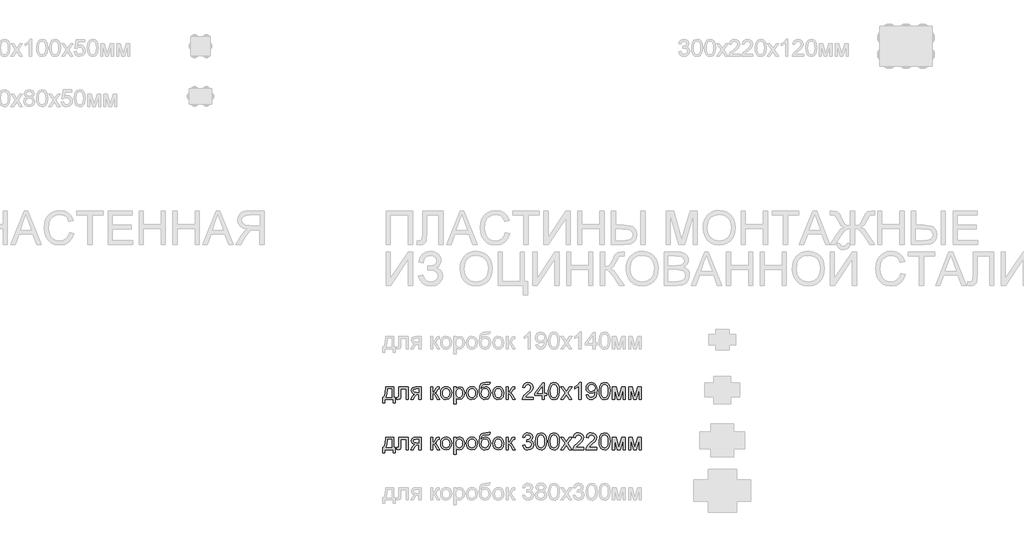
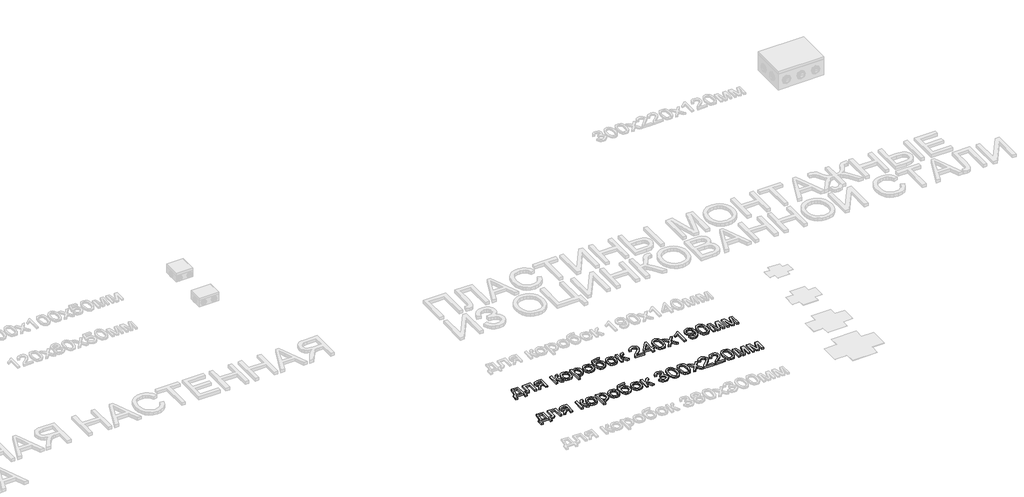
# One storey, part 9 of 98: 2 proxies.
"""IFC4 building model written with IfcOpenShell, lengths in millimetres."""

from ifc_helpers import new_model, si_unit, origin, origin_with_axes, place, context, project, spatial, polyline, outline, extrude, element, save

model = new_model("IFC4")

# Units and contexts
model_context = context("Model", 3, world=origin())
ifc_project = project(units=[si_unit("LENGTHUNIT", "METRE", prefix="MILLI")], contexts=[model_context])

# Site, building, storey
site = spatial("IfcSite", under=ifc_project)
building = spatial("IfcBuilding", under=site)
storey = spatial("IfcBuildingStorey", under=building, Name="Этаж 01", Elevation=0.0)

# Proxies
placement = place(None, origin())
element("IfcBuildingElementProxy", 1, Name="100", ObjectType="100", at=placement, inside=storey, context=model_context, shape_type="SweptSolid", body=[
    extrude(outline(polyline([(8408.5501681, -48630.4498145), (8455.6390635, -48630.4498145), (8455.6390635, -48691.6653785), (8465.0568426, -48691.6653785), (8465.0568426, -48724.6276053), (8452.4998038, -48724.6276053), (8452.4998038, -48704.2224173), (8400.7020189, -48704.2224173), (8400.7020189, -48724.6276053), (8388.1449801, -48724.6276053), (8388.1449801, -48691.6653785), (8395.9931294, -48691.6653785), (8405.6929513, -48667.7162606), (8408.5501681, -48630.4498145)]), holes=[polyline([(8419.5375771, -48643.0068533), (8416.5945211, -48671.6158098), (8410.119798, -48691.6653785), (8443.0820247, -48691.6653785), (8443.0820247, -48643.0068533), (8419.5375771, -48643.0068533)])]), origin_with_axes(), (0.0, 0.0, 1.0), 10.0),
    extrude(outline(polyline([(8485.4620306, -48630.4498145), (8541.968705, -48630.4498145), (8541.968705, -48704.1488409), (8529.4116663, -48704.1488409), (8529.4116663, -48643.0068533), (8498.0190694, -48643.0068533), (8498.0190694, -48678.2008975), (8497.1729408, -48694.4367562), (8492.5253649, -48701.2916241), (8481.537956, -48704.2224173), (8471.335362, -48703.5847552), (8471.335362, -48691.6653785), (8476.9516938, -48691.6653785), (8482.6293392, -48690.8928263), (8484.8979449, -48688.4402797), (8485.4620306, -48677.489659), (8485.4620306, -48630.4498145)])), origin_with_axes(), (0.0, 0.0, 1.0), 10.0),
    extrude(outline(polyline([(8617.3109377, -48630.4498145), (8617.3109377, -48704.2224173), (8604.7538989, -48704.2224173), (8604.7538989, -48675.9690801), (8597.9112938, -48675.9690801), (8588.5916166, -48677.5632354), (8579.8360251, -48688.2808642), (8569.8296348, -48704.2224173), (8555.3105587, -48704.2224173), (8567.9166484, -48684.0624839), (8578.6097518, -48673.6146353), (8570.0258385, -48670.984279), (8563.9925738, -48665.9872153), (8559.2346334, -48651.7624448), (8560.8594455, -48643.1662688), (8565.7338819, -48636.3604519), (8573.6862644, -48631.9274739), (8584.5449146, -48630.4498145), (8617.3109377, -48630.4498145)]), holes=[polyline([(8604.7538989, -48643.0068533), (8588.1992091, -48643.0068533), (8574.7960417, -48645.913121), (8571.7916721, -48652.718938), (8576.2185188, -48660.8246046), (8591.9025545, -48663.4120413), (8604.7538989, -48663.4120413), (8604.7538989, -48643.0068533)])]), origin_with_axes(), (0.0, 0.0, 1.0), 10.0),
    extrude(outline(polyline([(8675.387242, -48630.4498145), (8687.9442807, -48630.4498145), (8687.9442807, -48661.8424114), (8696.3565157, -48659.5860685), (8703.2481717, -48646.4404186), (8708.9748681, -48635.0973904), (8714.0271142, -48631.4063077), (8723.2119013, -48630.4498145), (8725.615397, -48630.4498145), (8725.615397, -48643.0804297), (8722.2308827, -48643.0068533), (8716.0995161, -48644.3312285), (8711.783034, -48652.5963106), (8706.7185252, -48661.5358431), (8699.6184027, -48665.9136389), (8707.5401283, -48670.800338), (8715.3147012, -48681.0949025), (8728.7546567, -48704.2224173), (8714.4808353, -48704.2224173), (8701.3106599, -48681.5854118), (8694.688784, -48672.0082172), (8687.9442807, -48669.6905607), (8687.9442807, -48704.2224173), (8675.387242, -48704.2224173), (8675.387242, -48630.4498145)])), origin_with_axes(), (0.0, 0.0, 1.0), 10.0),
    extrude(outline(polyline([(8733.4635463, -48667.3361159), (8736.1797417, -48649.5490214), (8744.3283279, -48637.047165), (8754.3960318, -48630.9219297), (8766.4502985, -48628.8801847), (8779.6419337, -48631.3664538), (8790.1786872, -48638.8252613), (8797.0856717, -48650.6679958), (8799.3879998, -48666.3060463), (8795.3167724, -48688.6487462), (8783.4587094, -48701.2916241), (8766.4502985, -48705.7920471), (8753.0992478, -48703.314975), (8742.574757, -48695.8837587), (8735.741349, -48683.7927038), (8733.4635463, -48667.3361159)]), holes=[polyline([(8746.020585, -48667.3115904), (8747.4737189, -48678.6760784), (8751.8331206, -48686.772548), (8758.3936828, -48691.6193933), (8766.4502985, -48693.2350084), (8774.470126, -48691.6101962), (8781.0184255, -48686.7357598), (8785.3778272, -48678.5319913), (8786.830961, -48666.919183), (8785.3686301, -48655.8857888), (8780.9816373, -48647.8996838), (8774.4241407, -48643.0528385), (8766.4502985, -48641.4372234), (8758.3936828, -48643.0467072), (8751.8331206, -48647.8751584), (8747.4737189, -48655.9532338), (8746.020585, -48667.3115904)])]), origin_with_axes(), (0.0, 0.0, 1.0), 10.0),
    extrude(outline(polyline([(8813.5146684, -48732.4757545), (8813.5146684, -48630.4498145), (8826.0717072, -48630.4498145), (8826.0717072, -48642.7615986), (8834.7537223, -48632.3505382), (8846.4768952, -48628.8801847), (8862.3939228, -48633.736227), (8872.7927206, -48647.4214372), (8876.2998623, -48666.7720302), (8872.3389994, -48687.1159045), (8860.8365557, -48700.972793), (8844.9563163, -48705.7920471), (8834.030221, -48702.5669483), (8826.0717072, -48694.4122307), (8826.0717072, -48732.4757545), (8813.5146684, -48732.4757545)]), holes=[polyline([(8826.0717072, -48667.9247271), (8827.4298049, -48679.1819161), (8831.504098, -48687.0545908), (8837.5159029, -48691.689904), (8844.6865361, -48693.2350084), (8851.9736653, -48691.6347217), (8858.1387544, -48686.8338616), (8862.3418062, -48678.6730127), (8863.7428235, -48666.9927594), (8862.3755287, -48655.796884), (8858.2736445, -48647.8138447), (8852.2710366, -48643.0313788), (8845.2015709, -48641.4372234), (8838.1045141, -48643.1325463), (8831.87198, -48648.2185149), (8827.5217754, -48656.5357137), (8826.0717072, -48667.9247271)])]), origin_with_axes(), (0.0, 0.0, 1.0), 10.0),
    extrude(outline(polyline([(8887.2872712, -48667.3361159), (8890.0034666, -48649.5490214), (8898.1520528, -48637.047165), (8908.2197567, -48630.9219297), (8920.2740234, -48628.8801847), (8933.4656586, -48631.3664538), (8944.0024121, -48638.8252613), (8950.9093966, -48650.6679958), (8953.2117247, -48666.3060463), (8949.1404973, -48688.6487462), (8937.2824343, -48701.2916241), (8920.2740234, -48705.7920471), (8906.9229727, -48703.314975), (8896.3984819, -48695.8837587), (8889.5650739, -48683.7927038), (8887.2872712, -48667.3361159)]), holes=[polyline([(8899.84431, -48667.3115904), (8901.2974438, -48678.6760784), (8905.6568455, -48686.772548), (8912.2174077, -48691.6193933), (8920.2740234, -48693.2350084), (8928.2938509, -48691.6101962), (8934.8421504, -48686.7357598), (8939.2015521, -48678.5319913), (8940.654686, -48666.919183), (8939.192355, -48655.8857888), (8934.8053622, -48647.8996838), (8928.2478657, -48643.0528385), (8920.2740234, -48641.4372234), (8912.2174077, -48643.0467072), (8905.6568455, -48647.8751584), (8901.2974438, -48655.9532338), (8899.84431, -48667.3115904)])]), origin_with_axes(), (0.0, 0.0, 1.0), 10.0),
    extrude(outline(polyline([(9019.1361783, -48602.1964773), (9030.1235872, -48602.1964773), (9026.8862256, -48611.9944011), (9020.4850789, -48615.538331), (9005.1076115, -48616.3231459), (8984.3958552, -48619.2171509), (8976.4496041, -48628.4877772), (8973.7640655, -48644.8953142), (8984.6411098, -48632.8778357), (8998.6574139, -48628.8801847), (9011.7233561, -48631.4216361), (9022.3244889, -48639.0459905), (9029.351035, -48651.005221), (9031.693217, -48666.551301), (9027.0456412, -48688.1582368), (9016.021444, -48701.1935222), (8998.6574139, -48705.7920471), (8987.3235827, -48704.3113221), (8978.8285743, -48699.869147), (8967.9760555, -48684.7124088), (8964.1991336, -48652.5472597), (8966.5811696, -48628.4540547), (8973.7272773, -48613.7602347), (8985.8152665, -48606.264639), (9003.0229469, -48603.7661071), (9017.0024627, -48603.4840643), (9019.1361783, -48602.1964773)]), holes=[polyline([(9019.1361783, -48666.1588935), (9017.7750149, -48656.2781963), (9013.6915247, -48648.3656677), (9007.1309625, -48643.1693345), (8998.3385828, -48641.4372234), (8989.1721898, -48643.2674364), (8982.3725042, -48648.7580751), (8978.1602554, -48657.3082658), (8976.7561724, -48668.3171346), (8978.3074082, -48678.9887781), (8982.9611154, -48686.8215989), (8989.8895596, -48691.631656), (8998.2650064, -48693.2350084), (9006.6833727, -48691.38027), (9013.3481682, -48685.8160548), (9017.6891757, -48677.1922877), (9019.1361783, -48666.1588935)])]), origin_with_axes(), (0.0, 0.0, 1.0), 10.0),
    extrude(outline(polyline([(9044.2502558, -48667.3361159), (9046.9664512, -48649.5490214), (9055.1150374, -48637.047165), (9065.1827413, -48630.9219297), (9077.237008, -48628.8801847), (9090.4286432, -48631.3664538), (9100.9653967, -48638.8252613), (9107.8723812, -48650.6679958), (9110.1747093, -48666.3060463), (9106.1034819, -48688.6487462), (9094.2454189, -48701.2916241), (9077.237008, -48705.7920471), (9063.8859573, -48703.314975), (9053.3614665, -48695.8837587), (9046.5280585, -48683.7927038), (9044.2502558, -48667.3361159)]), holes=[polyline([(9056.8072946, -48667.3115904), (9058.2604284, -48678.6760784), (9062.6198301, -48686.772548), (9069.1803923, -48691.6193933), (9077.237008, -48693.2350084), (9085.2568355, -48691.6101962), (9091.805135, -48686.7357598), (9096.1645367, -48678.5319913), (9097.6176706, -48666.919183), (9096.1553396, -48655.8857888), (9091.7683468, -48647.8996838), (9085.2108503, -48643.0528385), (9077.237008, -48641.4372234), (9069.1803923, -48643.0467072), (9062.6198301, -48647.8751584), (9058.2604284, -48655.9532338), (9056.8072946, -48667.3115904)])]), origin_with_axes(), (0.0, 0.0, 1.0), 10.0),
    extrude(outline(polyline([(9124.3013779, -48630.4498145), (9136.8584167, -48630.4498145), (9136.8584167, -48661.8424114), (9145.2706517, -48659.5860685), (9152.1623077, -48646.4404186), (9157.8890041, -48635.0973904), (9162.9412502, -48631.4063077), (9172.1260373, -48630.4498145), (9174.529533, -48630.4498145), (9174.529533, -48643.0804297), (9171.1450187, -48643.0068533), (9165.0136521, -48644.3312285), (9160.69717, -48652.5963106), (9155.6326612, -48661.5358431), (9148.5325387, -48665.9136389), (9156.4542643, -48670.800338), (9164.2288372, -48681.0949025), (9177.6687927, -48704.2224173), (9163.3949713, -48704.2224173), (9150.2247959, -48681.5854118), (9143.60292, -48672.0082172), (9136.8584167, -48669.6905607), (9136.8584167, -48704.2224173), (9124.3013779, -48704.2224173), (9124.3013779, -48630.4498145)])), origin_with_axes(), (0.0, 0.0, 1.0), 10.0),
    extrude(outline(polyline([(9285.9732521, -48691.6653785), (9285.9732521, -48704.2224173), (9220.0487986, -48704.2224173), (9221.3976992, -48695.5649277), (9229.0251192, -48682.2353367), (9244.7459432, -48667.6794724), (9266.4264554, -48646.7592496), (9271.8465835, -48632.5344792), (9266.7330237, -48621.0197727), (9253.3789073, -48616.3231459), (9239.4607052, -48620.9094081), (9234.1754672, -48633.5890742), (9221.6184284, -48632.0194444), (9224.6626519, -48619.8732072), (9231.2446739, -48611.0011197), (9241.021138, -48605.5748603), (9253.6486874, -48603.7661071), (9266.3682074, -48605.7771954), (9276.1262774, -48611.8104601), (9282.334286, -48620.823569), (9284.4036222, -48631.7741897), (9282.1718048, -48643.6813036), (9274.7528512, -48655.9930877), (9256.7634217, -48673.1977024), (9242.317922, -48685.2764945), (9236.6525393, -48691.6653785), (9285.9732521, -48691.6653785)])), origin_with_axes(), (0.0, 0.0, 1.0), 10.0),
    extrude(outline(polyline([(9339.3406669, -48704.2224173), (9339.3406669, -48680.6779696), (9293.8214013, -48680.6779696), (9293.8214013, -48668.1209308), (9342.4799266, -48605.335737), (9351.8977056, -48605.335737), (9351.8977056, -48668.1209308), (9364.4547444, -48668.1209308), (9364.4547444, -48680.6779696), (9351.8977056, -48680.6779696), (9351.8977056, -48704.2224173), (9339.3406669, -48704.2224173)]), holes=[polyline([(9339.3406669, -48668.1209308), (9339.3406669, -48629.3216431), (9309.2724451, -48668.1209308), (9339.3406669, -48668.1209308)])]), origin_with_axes(), (0.0, 0.0, 1.0), 10.0),
    extrude(outline(polyline([(9375.4421533, -48654.8036026), (9379.133236, -48625.9003405), (9390.0961195, -48609.2352861), (9408.4043801, -48603.7661071), (9423.070609, -48607.0034687), (9433.1996266, -48616.3354086), (9439.0857385, -48631.1978412), (9441.3666069, -48654.8036026), (9437.7123124, -48683.5842374), (9426.7862171, -48700.2860799), (9418.5548575, -48704.4155553), (9408.4043801, -48705.7920471), (9395.356832, -48703.4008142), (9385.4485436, -48696.2271153), (9377.9437509, -48679.2370984), (9375.4421533, -48654.8036026)]), holes=[polyline([(9387.9991921, -48654.7790771), (9389.4707201, -48674.5312746), (9393.885304, -48685.9632076), (9400.458129, -48691.4170582), (9408.4043801, -48693.2350084), (9416.3506312, -48691.4109268), (9422.9234562, -48685.9386821), (9427.3380401, -48674.5006178), (9428.8095681, -48654.7790771), (9427.387091, -48635.4714038), (9423.1196599, -48623.9505659), (9416.5590976, -48618.2300009), (9408.2572273, -48616.3231459), (9400.3968153, -48618.0031403), (9394.0815077, -48623.0431237), (9389.519771, -48635.2813314), (9387.9991921, -48654.7790771)])]), origin_with_axes(), (0.0, 0.0, 1.0), 10.0),
    extrude(outline(polyline([(9447.6451262, -48704.2224173), (9474.4759864, -48667.1399122), (9449.2147561, -48630.4498145), (9464.3224434, -48630.4498145), (9476.5116001, -48648.1081503), (9482.2015083, -48656.4468088), (9487.1311271, -48649.6287292), (9501.012541, -48630.4498145), (9516.1202283, -48630.4498145), (9489.5836737, -48667.1399122), (9515.1392096, -48704.2224173), (9500.0315224, -48704.2224173), (9484.654055, -48681.9287684), (9481.8336263, -48677.857541), (9462.7528135, -48704.2224173), (9447.6451262, -48704.2224173)])), origin_with_axes(), (0.0, 0.0, 1.0), 10.0),
    extrude(outline(polyline([(9570.0762542, -48704.2224173), (9557.5192155, -48704.2224173), (9557.5192155, -48625.9371287), (9545.6243643, -48634.4106773), (9532.4051379, -48640.7505104), (9532.4051379, -48628.8801847), (9550.8115004, -48617.1324863), (9561.9828503, -48603.7661071), (9570.0762542, -48603.7661071), (9570.0762542, -48704.2224173)])), origin_with_axes(), (0.0, 0.0, 1.0), 10.0),
    extrude(outline(polyline([(9601.4688512, -48679.1083397), (9614.0258899, -48677.5387099), (9619.6667472, -48689.5194002), (9630.3598505, -48693.2350084), (9640.5256563, -48690.8437754), (9647.4173124, -48684.4548914), (9651.525328, -48673.5410589), (9653.3402125, -48658.9729319), (9653.2666361, -48656.5203852), (9643.2234576, -48666.0362662), (9629.4524083, -48669.6905607), (9618.0020812, -48667.4587432), (9608.4708718, -48660.7632909), (9602.0421339, -48650.4196755), (9599.8992213, -48637.2433687), (9602.1463672, -48623.6317349), (9608.8878047, -48612.963157), (9619.0137566, -48606.0653696), (9631.4144456, -48603.7661071), (9649.3057733, -48609.0145569), (9661.6175574, -48623.9750914), (9665.8236748, -48652.0812758), (9661.6298201, -48682.5786932), (9656.4150928, -48692.5697551), (9649.1586205, -48699.8568843), (9640.1731027, -48704.3082564), (9629.7712393, -48705.7920471), (9619.0352164, -48704.041542), (9610.4696973, -48698.7900265), (9604.4793521, -48690.3685945), (9601.4688512, -48679.1083397)]), holes=[polyline([(9653.2666361, -48636.9490631), (9651.9116041, -48628.4387263), (9647.846508, -48621.8904268), (9641.5373318, -48617.7149661), (9633.4500593, -48616.3231459), (9625.0623498, -48617.822265), (9618.342372, -48622.3196224), (9613.9277881, -48629.2020814), (9612.4562601, -48637.8565054), (9613.8480803, -48645.6157498), (9618.0235409, -48651.7747075), (9624.5779718, -48655.7938183), (9633.1067027, -48657.1335219), (9647.5889906, -48651.7747075), (9651.8472247, -48645.3888892), (9653.2666361, -48636.9490631)])]), origin_with_axes(), (0.0, 0.0, 1.0), 10.0),
    extrude(outline(polyline([(9676.8110838, -48654.8036026), (9680.5021665, -48625.9003405), (9691.4650499, -48609.2352861), (9709.7733105, -48603.7661071), (9724.4395394, -48607.0034687), (9734.568557, -48616.3354086), (9740.4546689, -48631.1978412), (9742.7355373, -48654.8036026), (9739.0812428, -48683.5842374), (9728.1551476, -48700.2860799), (9719.9237879, -48704.4155553), (9709.7733105, -48705.7920471), (9696.7257624, -48703.4008142), (9686.817474, -48696.2271153), (9679.3126813, -48679.2370984), (9676.8110838, -48654.8036026)]), holes=[polyline([(9689.3681225, -48654.7790771), (9690.8396505, -48674.5312746), (9695.2542345, -48685.9632076), (9701.8270594, -48691.4170582), (9709.7733105, -48693.2350084), (9717.7195616, -48691.4109268), (9724.2923866, -48685.9386821), (9728.7069706, -48674.5006178), (9730.1784985, -48654.7790771), (9728.7560215, -48635.4714038), (9724.4885903, -48623.9505659), (9717.9280281, -48618.2300009), (9709.6261577, -48616.3231459), (9701.7657458, -48618.0031403), (9695.4504382, -48623.0431237), (9690.8887015, -48635.2813314), (9689.3681225, -48654.7790771)])]), origin_with_axes(), (0.0, 0.0, 1.0), 10.0),
    extrude(outline(polyline([(9756.8622059, -48630.4498145), (9778.4691418, -48630.4498145), (9795.1219334, -48689.5071375), (9813.0745748, -48630.4498145), (9833.7740684, -48630.4498145), (9833.7740684, -48704.2224173), (9821.2170296, -48704.2224173), (9821.2170296, -48644.8217378), (9803.1662864, -48704.2224173), (9786.685173, -48704.2224173), (9769.4192447, -48641.9767837), (9769.4192447, -48704.2224173), (9756.8622059, -48704.2224173), (9756.8622059, -48630.4498145)])), origin_with_axes(), (0.0, 0.0, 1.0), 10.0),
    extrude(outline(polyline([(9852.6096265, -48630.4498145), (9874.2165624, -48630.4498145), (9890.869354, -48689.5071375), (9908.8219954, -48630.4498145), (9929.521489, -48630.4498145), (9929.521489, -48704.2224173), (9916.9644502, -48704.2224173), (9916.9644502, -48644.8217378), (9898.913707, -48704.2224173), (9882.4325936, -48704.2224173), (9865.1666653, -48641.9767837), (9865.1666653, -48704.2224173), (9852.6096265, -48704.2224173), (9852.6096265, -48630.4498145)])), origin_with_axes(), (0.0, 0.0, 1.0), 10.0),
])
element("IfcBuildingElementProxy", 2, Name="100", ObjectType="100", at=placement, inside=storey, context=model_context, shape_type="SweptSolid", body=[
    extrude(outline(polyline([(8408.5501681, -48930.4498145), (8455.6390635, -48930.4498145), (8455.6390635, -48991.6653785), (8465.0568426, -48991.6653785), (8465.0568426, -49024.6276053), (8452.4998038, -49024.6276053), (8452.4998038, -49004.2224173), (8400.7020189, -49004.2224173), (8400.7020189, -49024.6276053), (8388.1449801, -49024.6276053), (8388.1449801, -48991.6653785), (8395.9931294, -48991.6653785), (8405.6929513, -48967.7162606), (8408.5501681, -48930.4498145)]), holes=[polyline([(8419.5375771, -48943.0068533), (8416.5945211, -48971.6158098), (8410.119798, -48991.6653785), (8443.0820247, -48991.6653785), (8443.0820247, -48943.0068533), (8419.5375771, -48943.0068533)])]), origin_with_axes(), (0.0, 0.0, 1.0), 10.0),
    extrude(outline(polyline([(8485.4620306, -48930.4498145), (8541.968705, -48930.4498145), (8541.968705, -49004.1488409), (8529.4116663, -49004.1488409), (8529.4116663, -48943.0068533), (8498.0190694, -48943.0068533), (8498.0190694, -48978.2008975), (8497.1729408, -48994.4367562), (8492.5253649, -49001.2916241), (8481.537956, -49004.2224173), (8471.335362, -49003.5847552), (8471.335362, -48991.6653785), (8476.9516938, -48991.6653785), (8482.6293392, -48990.8928263), (8484.8979449, -48988.4402797), (8485.4620306, -48977.489659), (8485.4620306, -48930.4498145)])), origin_with_axes(), (0.0, 0.0, 1.0), 10.0),
    extrude(outline(polyline([(8617.3109377, -48930.4498145), (8617.3109377, -49004.2224173), (8604.7538989, -49004.2224173), (8604.7538989, -48975.9690801), (8597.9112938, -48975.9690801), (8588.5916166, -48977.5632354), (8579.8360251, -48988.2808642), (8569.8296348, -49004.2224173), (8555.3105587, -49004.2224173), (8567.9166484, -48984.0624839), (8578.6097518, -48973.6146353), (8570.0258385, -48970.984279), (8563.9925738, -48965.9872153), (8559.2346334, -48951.7624448), (8560.8594455, -48943.1662688), (8565.7338819, -48936.3604519), (8573.6862644, -48931.9274739), (8584.5449146, -48930.4498145), (8617.3109377, -48930.4498145)]), holes=[polyline([(8604.7538989, -48943.0068533), (8588.1992091, -48943.0068533), (8574.7960417, -48945.913121), (8571.7916721, -48952.718938), (8576.2185188, -48960.8246046), (8591.9025545, -48963.4120413), (8604.7538989, -48963.4120413), (8604.7538989, -48943.0068533)])]), origin_with_axes(), (0.0, 0.0, 1.0), 10.0),
    extrude(outline(polyline([(8675.387242, -48930.4498145), (8687.9442807, -48930.4498145), (8687.9442807, -48961.8424114), (8696.3565157, -48959.5860685), (8703.2481717, -48946.4404186), (8708.9748681, -48935.0973904), (8714.0271142, -48931.4063077), (8723.2119013, -48930.4498145), (8725.615397, -48930.4498145), (8725.615397, -48943.0804297), (8722.2308827, -48943.0068533), (8716.0995161, -48944.3312285), (8711.783034, -48952.5963106), (8706.7185252, -48961.5358431), (8699.6184027, -48965.9136389), (8707.5401283, -48970.800338), (8715.3147012, -48981.0949025), (8728.7546567, -49004.2224173), (8714.4808353, -49004.2224173), (8701.3106599, -48981.5854118), (8694.688784, -48972.0082172), (8687.9442807, -48969.6905607), (8687.9442807, -49004.2224173), (8675.387242, -49004.2224173), (8675.387242, -48930.4498145)])), origin_with_axes(), (0.0, 0.0, 1.0), 10.0),
    extrude(outline(polyline([(8733.4635463, -48967.3361159), (8736.1797417, -48949.5490214), (8744.3283279, -48937.047165), (8754.3960318, -48930.9219297), (8766.4502985, -48928.8801847), (8779.6419337, -48931.3664538), (8790.1786872, -48938.8252613), (8797.0856717, -48950.6679958), (8799.3879998, -48966.3060463), (8795.3167724, -48988.6487462), (8783.4587094, -49001.2916241), (8766.4502985, -49005.7920471), (8753.0992478, -49003.314975), (8742.574757, -48995.8837587), (8735.741349, -48983.7927038), (8733.4635463, -48967.3361159)]), holes=[polyline([(8746.020585, -48967.3115904), (8747.4737189, -48978.6760784), (8751.8331206, -48986.772548), (8758.3936828, -48991.6193933), (8766.4502985, -48993.2350084), (8774.470126, -48991.6101962), (8781.0184255, -48986.7357598), (8785.3778272, -48978.5319913), (8786.830961, -48966.919183), (8785.3686301, -48955.8857888), (8780.9816373, -48947.8996838), (8774.4241407, -48943.0528385), (8766.4502985, -48941.4372234), (8758.3936828, -48943.0467072), (8751.8331206, -48947.8751584), (8747.4737189, -48955.9532338), (8746.020585, -48967.3115904)])]), origin_with_axes(), (0.0, 0.0, 1.0), 10.0),
    extrude(outline(polyline([(8813.5146684, -49032.4757545), (8813.5146684, -48930.4498145), (8826.0717072, -48930.4498145), (8826.0717072, -48942.7615986), (8834.7537223, -48932.3505382), (8846.4768952, -48928.8801847), (8862.3939228, -48933.736227), (8872.7927206, -48947.4214372), (8876.2998623, -48966.7720302), (8872.3389994, -48987.1159045), (8860.8365557, -49000.972793), (8844.9563163, -49005.7920471), (8834.030221, -49002.5669483), (8826.0717072, -48994.4122307), (8826.0717072, -49032.4757545), (8813.5146684, -49032.4757545)]), holes=[polyline([(8826.0717072, -48967.9247271), (8827.4298049, -48979.1819161), (8831.504098, -48987.0545908), (8837.5159029, -48991.689904), (8844.6865361, -48993.2350084), (8851.9736653, -48991.6347217), (8858.1387544, -48986.8338616), (8862.3418062, -48978.6730127), (8863.7428235, -48966.9927594), (8862.3755287, -48955.796884), (8858.2736445, -48947.8138447), (8852.2710366, -48943.0313788), (8845.2015709, -48941.4372234), (8838.1045141, -48943.1325463), (8831.87198, -48948.2185149), (8827.5217754, -48956.5357137), (8826.0717072, -48967.9247271)])]), origin_with_axes(), (0.0, 0.0, 1.0), 10.0),
    extrude(outline(polyline([(8887.2872712, -48967.3361159), (8890.0034666, -48949.5490214), (8898.1520528, -48937.047165), (8908.2197567, -48930.9219297), (8920.2740234, -48928.8801847), (8933.4656586, -48931.3664538), (8944.0024121, -48938.8252613), (8950.9093966, -48950.6679958), (8953.2117247, -48966.3060463), (8949.1404973, -48988.6487462), (8937.2824343, -49001.2916241), (8920.2740234, -49005.7920471), (8906.9229727, -49003.314975), (8896.3984819, -48995.8837587), (8889.5650739, -48983.7927038), (8887.2872712, -48967.3361159)]), holes=[polyline([(8899.84431, -48967.3115904), (8901.2974438, -48978.6760784), (8905.6568455, -48986.772548), (8912.2174077, -48991.6193933), (8920.2740234, -48993.2350084), (8928.2938509, -48991.6101962), (8934.8421504, -48986.7357598), (8939.2015521, -48978.5319913), (8940.654686, -48966.919183), (8939.192355, -48955.8857888), (8934.8053622, -48947.8996838), (8928.2478657, -48943.0528385), (8920.2740234, -48941.4372234), (8912.2174077, -48943.0467072), (8905.6568455, -48947.8751584), (8901.2974438, -48955.9532338), (8899.84431, -48967.3115904)])]), origin_with_axes(), (0.0, 0.0, 1.0), 10.0),
    extrude(outline(polyline([(9019.1361783, -48902.1964773), (9030.1235872, -48902.1964773), (9026.8862256, -48911.9944011), (9020.4850789, -48915.538331), (9005.1076115, -48916.3231459), (8984.3958552, -48919.2171509), (8976.4496041, -48928.4877772), (8973.7640655, -48944.8953142), (8984.6411098, -48932.8778357), (8998.6574139, -48928.8801847), (9011.7233561, -48931.4216361), (9022.3244889, -48939.0459905), (9029.351035, -48951.005221), (9031.693217, -48966.551301), (9027.0456412, -48988.1582368), (9016.021444, -49001.1935222), (8998.6574139, -49005.7920471), (8987.3235827, -49004.3113221), (8978.8285743, -48999.869147), (8967.9760555, -48984.7124088), (8964.1991336, -48952.5472597), (8966.5811696, -48928.4540547), (8973.7272773, -48913.7602347), (8985.8152665, -48906.264639), (9003.0229469, -48903.7661071), (9017.0024627, -48903.4840643), (9019.1361783, -48902.1964773)]), holes=[polyline([(9019.1361783, -48966.1588935), (9017.7750149, -48956.2781963), (9013.6915247, -48948.3656677), (9007.1309625, -48943.1693345), (8998.3385828, -48941.4372234), (8989.1721898, -48943.2674364), (8982.3725042, -48948.7580751), (8978.1602554, -48957.3082658), (8976.7561724, -48968.3171346), (8978.3074082, -48978.9887781), (8982.9611154, -48986.8215989), (8989.8895596, -48991.631656), (8998.2650064, -48993.2350084), (9006.6833727, -48991.38027), (9013.3481682, -48985.8160548), (9017.6891757, -48977.1922877), (9019.1361783, -48966.1588935)])]), origin_with_axes(), (0.0, 0.0, 1.0), 10.0),
    extrude(outline(polyline([(9044.2502558, -48967.3361159), (9046.9664512, -48949.5490214), (9055.1150374, -48937.047165), (9065.1827413, -48930.9219297), (9077.237008, -48928.8801847), (9090.4286432, -48931.3664538), (9100.9653967, -48938.8252613), (9107.8723812, -48950.6679958), (9110.1747093, -48966.3060463), (9106.1034819, -48988.6487462), (9094.2454189, -49001.2916241), (9077.237008, -49005.7920471), (9063.8859573, -49003.314975), (9053.3614665, -48995.8837587), (9046.5280585, -48983.7927038), (9044.2502558, -48967.3361159)]), holes=[polyline([(9056.8072946, -48967.3115904), (9058.2604284, -48978.6760784), (9062.6198301, -48986.772548), (9069.1803923, -48991.6193933), (9077.237008, -48993.2350084), (9085.2568355, -48991.6101962), (9091.805135, -48986.7357598), (9096.1645367, -48978.5319913), (9097.6176706, -48966.919183), (9096.1553396, -48955.8857888), (9091.7683468, -48947.8996838), (9085.2108503, -48943.0528385), (9077.237008, -48941.4372234), (9069.1803923, -48943.0467072), (9062.6198301, -48947.8751584), (9058.2604284, -48955.9532338), (9056.8072946, -48967.3115904)])]), origin_with_axes(), (0.0, 0.0, 1.0), 10.0),
    extrude(outline(polyline([(9124.3013779, -48930.4498145), (9136.8584167, -48930.4498145), (9136.8584167, -48961.8424114), (9145.2706517, -48959.5860685), (9152.1623077, -48946.4404186), (9157.8890041, -48935.0973904), (9162.9412502, -48931.4063077), (9172.1260373, -48930.4498145), (9174.529533, -48930.4498145), (9174.529533, -48943.0804297), (9171.1450187, -48943.0068533), (9165.0136521, -48944.3312285), (9160.69717, -48952.5963106), (9155.6326612, -48961.5358431), (9148.5325387, -48965.9136389), (9156.4542643, -48970.800338), (9164.2288372, -48981.0949025), (9177.6687927, -49004.2224173), (9163.3949713, -49004.2224173), (9150.2247959, -48981.5854118), (9143.60292, -48972.0082172), (9136.8584167, -48969.6905607), (9136.8584167, -49004.2224173), (9124.3013779, -49004.2224173), (9124.3013779, -48930.4498145)])), origin_with_axes(), (0.0, 0.0, 1.0), 10.0),
    extrude(outline(polyline([(9221.6184284, -48977.5387099), (9234.1754672, -48975.9690801), (9241.1039114, -48989.1883064), (9254.0656204, -48993.2350084), (9262.6740591, -48991.8431881), (9269.3204604, -48987.6677275), (9274.9858432, -48973.8844154), (9269.3695114, -48960.898181), (9255.09569, -48955.7600958), (9246.2910475, -48957.1335219), (9247.6889991, -48944.5764831), (9249.7000874, -48944.7236359), (9263.9493833, -48941.1183924), (9268.6950611, -48936.5443929), (9270.2769536, -48930.0328816), (9265.6906914, -48920.2104323), (9253.8694166, -48916.3231459), (9241.9009891, -48920.2472205), (9235.745097, -48932.0194444), (9223.1880582, -48930.4498145), (9226.8852723, -48919.1742314), (9233.4642286, -48910.755865), (9242.4650748, -48905.5135466), (9253.4279583, -48903.7661071), (9268.5724337, -48907.2119352), (9279.1674352, -48916.6297142), (9282.8339924, -48929.2971176), (9279.3513762, -48940.8731377), (9269.0506803, -48949.1872708), (9282.7358905, -48957.771184), (9287.5428819, -48974.1051446), (9285.1393862, -48986.3433523), (9277.9288991, -48996.5704718), (9267.0457234, -49003.4866533), (9253.624162, -49005.7920471), (9241.4840561, -49003.8238785), (9231.6002932, -48997.9193724), (9224.7270313, -48988.8878695), (9221.6184284, -48977.5387099)])), origin_with_axes(), (0.0, 0.0, 1.0), 10.0),
    extrude(outline(polyline([(9298.5302909, -48954.8036026), (9302.2213735, -48925.9003405), (9313.184257, -48909.2352861), (9331.4925176, -48903.7661071), (9346.1587465, -48907.0034687), (9356.2877641, -48916.3354086), (9362.173876, -48931.1978412), (9364.4547444, -48954.8036026), (9360.8004499, -48983.5842374), (9349.8743547, -49000.2860799), (9341.642995, -49004.4155553), (9331.4925176, -49005.7920471), (9318.4449695, -49003.4008142), (9308.5366811, -48996.2271153), (9301.0318884, -48979.2370984), (9298.5302909, -48954.8036026)]), holes=[polyline([(9311.0873296, -48954.7790771), (9312.5588576, -48974.5312746), (9316.9734416, -48985.9632076), (9323.5462665, -48991.4170582), (9331.4925176, -48993.2350084), (9339.4387687, -48991.4109268), (9346.0115937, -48985.9386821), (9350.4261776, -48974.5006178), (9351.8977056, -48954.7790771), (9350.4752286, -48935.4714038), (9346.2077974, -48923.9505659), (9339.6472352, -48918.2300009), (9331.3453648, -48916.3231459), (9323.4849529, -48918.0031403), (9317.1696453, -48923.0431237), (9312.6079085, -48935.2813314), (9311.0873296, -48954.7790771)])]), origin_with_axes(), (0.0, 0.0, 1.0), 10.0),
    extrude(outline(polyline([(9375.4421533, -48954.8036026), (9379.133236, -48925.9003405), (9390.0961195, -48909.2352861), (9408.4043801, -48903.7661071), (9423.070609, -48907.0034687), (9433.1996266, -48916.3354086), (9439.0857385, -48931.1978412), (9441.3666069, -48954.8036026), (9437.7123124, -48983.5842374), (9426.7862171, -49000.2860799), (9418.5548575, -49004.4155553), (9408.4043801, -49005.7920471), (9395.356832, -49003.4008142), (9385.4485436, -48996.2271153), (9377.9437509, -48979.2370984), (9375.4421533, -48954.8036026)]), holes=[polyline([(9387.9991921, -48954.7790771), (9389.4707201, -48974.5312746), (9393.885304, -48985.9632076), (9400.458129, -48991.4170582), (9408.4043801, -48993.2350084), (9416.3506312, -48991.4109268), (9422.9234562, -48985.9386821), (9427.3380401, -48974.5006178), (9428.8095681, -48954.7790771), (9427.387091, -48935.4714038), (9423.1196599, -48923.9505659), (9416.5590976, -48918.2300009), (9408.2572273, -48916.3231459), (9400.3968153, -48918.0031403), (9394.0815077, -48923.0431237), (9389.519771, -48935.2813314), (9387.9991921, -48954.7790771)])]), origin_with_axes(), (0.0, 0.0, 1.0), 10.0),
    extrude(outline(polyline([(9447.6451262, -49004.2224173), (9474.4759864, -48967.1399122), (9449.2147561, -48930.4498145), (9464.3224434, -48930.4498145), (9476.5116001, -48948.1081503), (9482.2015083, -48956.4468088), (9487.1311271, -48949.6287292), (9501.012541, -48930.4498145), (9516.1202283, -48930.4498145), (9489.5836737, -48967.1399122), (9515.1392096, -49004.2224173), (9500.0315224, -49004.2224173), (9484.654055, -48981.9287684), (9481.8336263, -48977.857541), (9462.7528135, -49004.2224173), (9447.6451262, -49004.2224173)])), origin_with_axes(), (0.0, 0.0, 1.0), 10.0),
    extrude(outline(polyline([(9587.3421825, -48991.6653785), (9587.3421825, -49004.2224173), (9521.417729, -49004.2224173), (9522.7666297, -48995.5649277), (9530.3940497, -48982.2353367), (9546.1148736, -48967.6794724), (9567.7953859, -48946.7592496), (9573.2155139, -48932.5344792), (9568.1019542, -48921.0197727), (9554.7478378, -48916.3231459), (9540.8296356, -48920.9094081), (9535.5443976, -48933.5890742), (9522.9873589, -48932.0194444), (9526.0315824, -48919.8732072), (9532.6136044, -48911.0011197), (9542.3900684, -48905.5748603), (9555.0176179, -48903.7661071), (9567.7371379, -48905.7771954), (9577.4952078, -48911.8104601), (9583.7032165, -48920.823569), (9585.7725527, -48931.7741897), (9583.5407353, -48943.6813036), (9576.1217817, -48955.9930877), (9558.1323521, -48973.1977024), (9543.6868524, -48985.2764945), (9538.0214697, -48991.6653785), (9587.3421825, -48991.6653785)])), origin_with_axes(), (0.0, 0.0, 1.0), 10.0),
    extrude(outline(polyline([(9664.254045, -48991.6653785), (9664.254045, -49004.2224173), (9598.3295915, -49004.2224173), (9599.6784921, -48995.5649277), (9607.3059121, -48982.2353367), (9623.0267361, -48967.6794724), (9644.7072483, -48946.7592496), (9650.1273764, -48932.5344792), (9645.0138167, -48921.0197727), (9631.6597002, -48916.3231459), (9617.7414981, -48920.9094081), (9612.4562601, -48933.5890742), (9599.8992213, -48932.0194444), (9602.9434448, -48919.8732072), (9609.5254669, -48911.0011197), (9619.3019309, -48905.5748603), (9631.9294804, -48903.7661071), (9644.6490003, -48905.7771954), (9654.4070703, -48911.8104601), (9660.6150789, -48920.823569), (9662.6844152, -48931.7741897), (9660.4525977, -48943.6813036), (9653.0336441, -48955.9930877), (9635.0442146, -48973.1977024), (9620.5987149, -48985.2764945), (9614.9333322, -48991.6653785), (9664.254045, -48991.6653785)])), origin_with_axes(), (0.0, 0.0, 1.0), 10.0),
    extrude(outline(polyline([(9676.8110838, -48954.8036026), (9680.5021665, -48925.9003405), (9691.4650499, -48909.2352861), (9709.7733105, -48903.7661071), (9724.4395394, -48907.0034687), (9734.568557, -48916.3354086), (9740.4546689, -48931.1978412), (9742.7355373, -48954.8036026), (9739.0812428, -48983.5842374), (9728.1551476, -49000.2860799), (9719.9237879, -49004.4155553), (9709.7733105, -49005.7920471), (9696.7257624, -49003.4008142), (9686.817474, -48996.2271153), (9679.3126813, -48979.2370984), (9676.8110838, -48954.8036026)]), holes=[polyline([(9689.3681225, -48954.7790771), (9690.8396505, -48974.5312746), (9695.2542345, -48985.9632076), (9701.8270594, -48991.4170582), (9709.7733105, -48993.2350084), (9717.7195616, -48991.4109268), (9724.2923866, -48985.9386821), (9728.7069706, -48974.5006178), (9730.1784985, -48954.7790771), (9728.7560215, -48935.4714038), (9724.4885903, -48923.9505659), (9717.9280281, -48918.2300009), (9709.6261577, -48916.3231459), (9701.7657458, -48918.0031403), (9695.4504382, -48923.0431237), (9690.8887015, -48935.2813314), (9689.3681225, -48954.7790771)])]), origin_with_axes(), (0.0, 0.0, 1.0), 10.0),
    extrude(outline(polyline([(9756.8622059, -48930.4498145), (9778.4691418, -48930.4498145), (9795.1219334, -48989.5071375), (9813.0745748, -48930.4498145), (9833.7740684, -48930.4498145), (9833.7740684, -49004.2224173), (9821.2170296, -49004.2224173), (9821.2170296, -48944.8217378), (9803.1662864, -49004.2224173), (9786.685173, -49004.2224173), (9769.4192447, -48941.9767837), (9769.4192447, -49004.2224173), (9756.8622059, -49004.2224173), (9756.8622059, -48930.4498145)])), origin_with_axes(), (0.0, 0.0, 1.0), 10.0),
    extrude(outline(polyline([(9852.6096265, -48930.4498145), (9874.2165624, -48930.4498145), (9890.869354, -48989.5071375), (9908.8219954, -48930.4498145), (9929.521489, -48930.4498145), (9929.521489, -49004.2224173), (9916.9644502, -49004.2224173), (9916.9644502, -48944.8217378), (9898.913707, -49004.2224173), (9882.4325936, -49004.2224173), (9865.1666653, -48941.9767837), (9865.1666653, -49004.2224173), (9852.6096265, -49004.2224173), (9852.6096265, -48930.4498145)])), origin_with_axes(), (0.0, 0.0, 1.0), 10.0),
])

save(model, "model.ifc")
